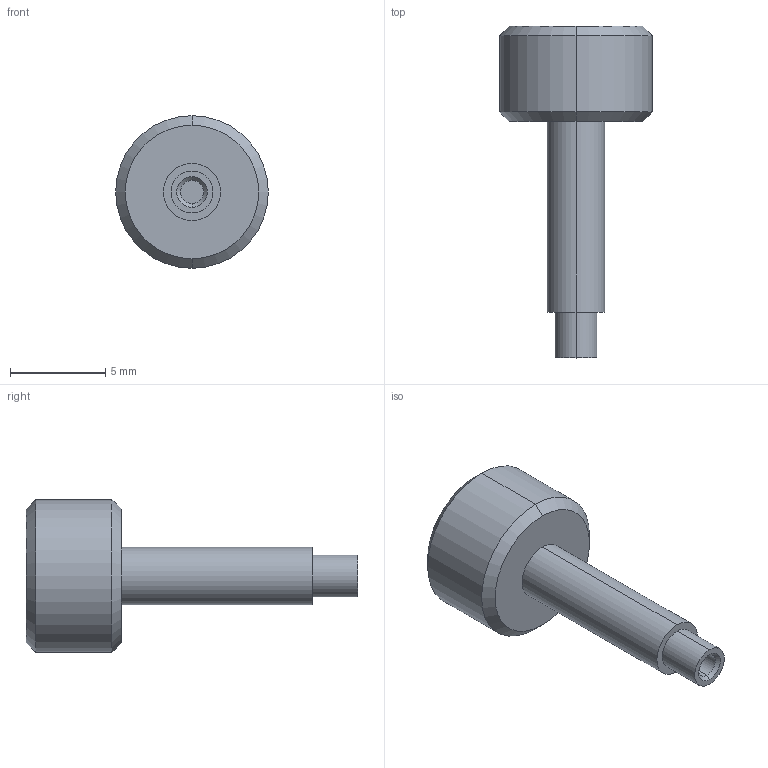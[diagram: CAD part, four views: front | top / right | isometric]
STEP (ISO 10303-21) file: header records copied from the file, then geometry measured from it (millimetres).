
FILE_DESCRIPTION(/* description */ ('(C) Elphel, Inc. 2012. Licensed under CERN OHL v.1.1 or later, see http://ohwr.org/cernohl'),/* implementation_level */ '2;1');
FILE_NAME(/* name */ '0353-40-15',/* time_stamp */ '2012-05-28T17:11:37-06:00',/* author */ (''),/* organization */ ('Elphel, Inc'),/* preprocessor_version */ 'ST-DEVELOPER v12',/* originating_system */ 'VariCAD 2012-1.04; kernel version (20100102)',/* authorisation */ '');
FILE_SCHEMA (('AUTOMOTIVE_DESIGN'));
Length unit declared in the file: millimetre
Products named in the file (1): Part
Bounding box: 8 x 17.4 x 8 mm (x, y, z)
Volume: 319.2 mm3; surface area: 382.4 mm2
Topology: 2 solids, 2 shells, 27 faces, 52 edges, 32 vertices
Faces by surface type: cylinder 14, plane 7, cone 6
Entity records: 926 total; most frequent: DIRECTION 144, CARTESIAN_POINT 114, ORIENTED_EDGE 104, AXIS2_PLACEMENT_3D 62, EDGE_CURVE 52, EDGE_LOOP 32, CIRCLE 32, VERTEX_POINT 32
